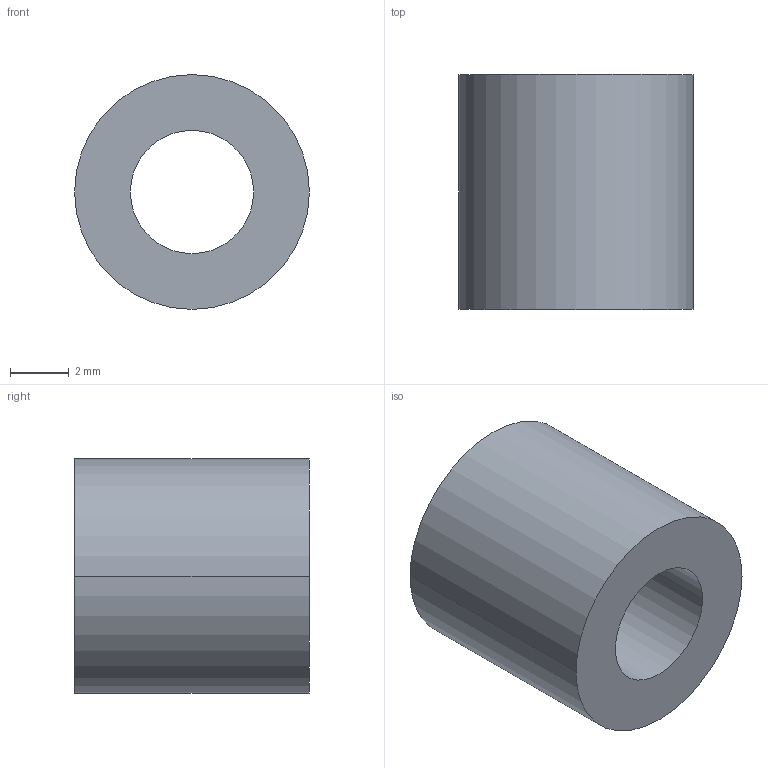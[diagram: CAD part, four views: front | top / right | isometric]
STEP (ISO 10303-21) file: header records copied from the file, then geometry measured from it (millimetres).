
FILE_DESCRIPTION (( 'STEP AP203' ), '1' );
FILE_NAME ('30800.WPP8B4.2.step', '2019-01-23T22:20:33', ( '' ), ( '' ), 'SwSTEP 2.0', 'SolidWorks 2017', '' );
FILE_SCHEMA (( 'CONFIG_CONTROL_DESIGN' ));
Length unit declared in the file: millimetre
Products named in the file (1): 30800.WPP8B4.2
Bounding box: 8 x 8 x 8 mm (x, y, z)
Volume: 288.2 mm3; surface area: 374.2 mm2
Topology: 1 solids, 1 shells, 8 faces, 16 edges, 10 vertices
Faces by surface type: cylinder 4, torus 2, plane 2
Entity records: 297 total; most frequent: DIRECTION 46, CARTESIAN_POINT 35, ORIENTED_EDGE 32, AXIS2_PLACEMENT_3D 21, EDGE_CURVE 16, CIRCLE 12, EDGE_LOOP 10, VERTEX_POINT 10
